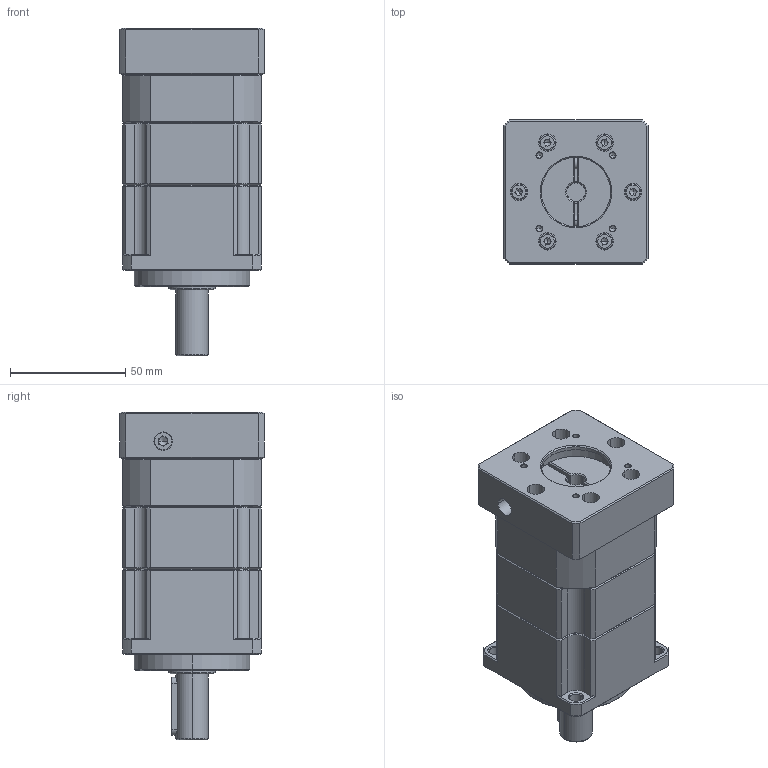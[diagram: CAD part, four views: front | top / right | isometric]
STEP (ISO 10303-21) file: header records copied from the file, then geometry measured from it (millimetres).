
FILE_DESCRIPTION (( 'STEP AP214' ), '1' );
FILE_NAME ('ZPB060-D14-L2-P1-8-30-45-M3.step', '2024-04-23T15:39:38', ( 'Windows 蚚誧' ), ( 'Organization' ), 'SwSTEP 2.0', 'SolidWorks 2016', '' );
FILE_SCHEMA (( 'AUTOMOTIVE_DESIGN' ));
Length unit declared in the file: millimetre
Products named in the file (1): ZPB060-D14-L2-P1-8-30-45-M3
Bounding box: 62.5 x 62.5 x 142 mm (x, y, z)
Volume: 335043.7 mm3; surface area: 82528 mm2
Topology: 17 solids, 25 shells, 2137 faces, 5915 edges, 3800 vertices
Faces by surface type: plane 1094, bspline 373, cylinder 318, cone 210, torus 96, sphere 46
Entity records: 110558 total; most frequent: CARTESIAN_POINT 35925, ORIENTED_EDGE 11490, DIRECTION 9074, EDGE_CURVE 5745, VERTEX_POINT 3731, VECTOR 3434, LINE 3434, AXIS2_PLACEMENT_3D 2820
